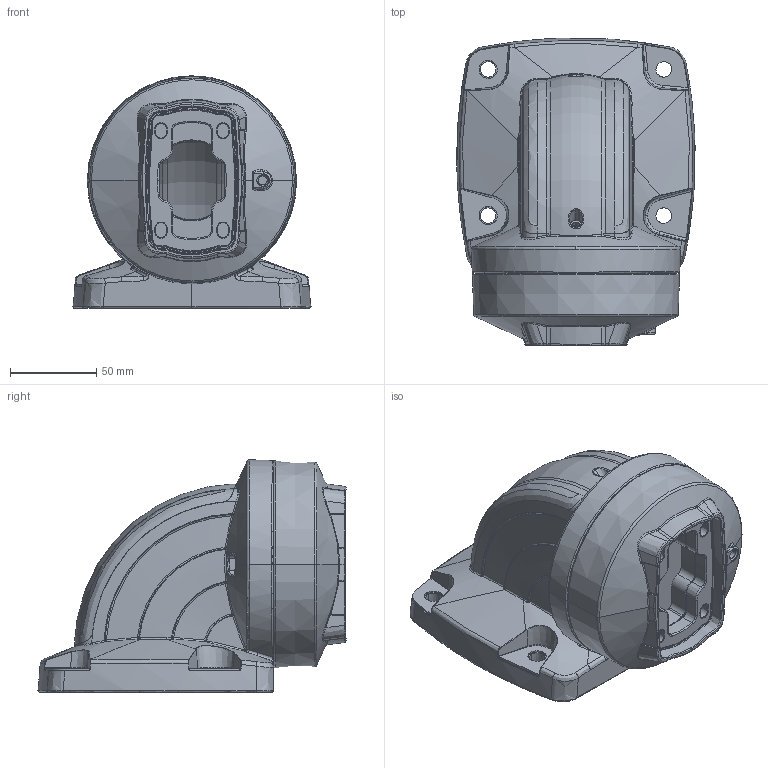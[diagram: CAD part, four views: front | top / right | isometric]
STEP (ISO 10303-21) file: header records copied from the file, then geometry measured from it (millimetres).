
FILE_DESCRIPTION (( 'STEP AP203' ), '1' );
FILE_NAME ('710.STEP', '2016-05-05T14:58:20', ( '' ), ( '' ), 'SwSTEP 2.0', 'SolidWorks 2013', '' );
FILE_SCHEMA (( 'CONFIG_CONTROL_DESIGN' ));
Length unit declared in the file: millimetre
Products named in the file (1): 710
Bounding box: 138.37 x 179.01 x 135.1 mm (x, y, z)
Volume: 784783.4 mm3; surface area: 179491.8 mm2
Topology: 3 solids, 34 shells, 1683 faces, 4045 edges, 2373 vertices
Faces by surface type: bspline 893, cone 256, torus 211, plane 156, cylinder 153, sphere 14
Entity records: 89710 total; most frequent: CARTESIAN_POINT 57942, ORIENTED_EDGE 7932, DIRECTION 4792, EDGE_CURVE 3966, VERTEX_POINT 2373, AXIS2_PLACEMENT_3D 2125, B_SPLINE_CURVE_WITH_KNOTS 1971, EDGE_LOOP 1727
